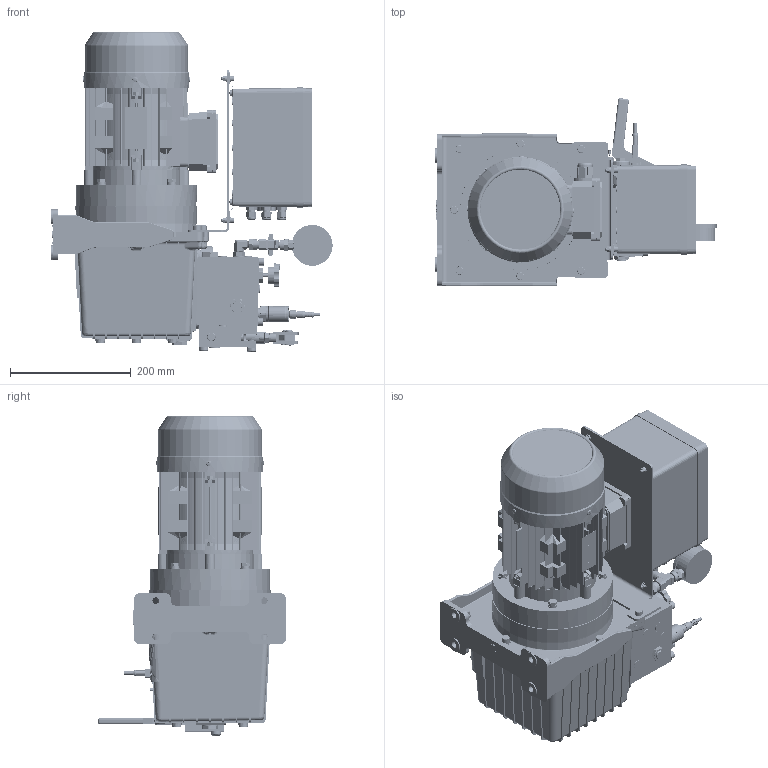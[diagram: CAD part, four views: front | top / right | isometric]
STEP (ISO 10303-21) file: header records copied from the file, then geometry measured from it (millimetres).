
FILE_DESCRIPTION(/* description */ (''),/* implementation_level */ '2;1');
FILE_NAME(/* name */ 'C:\Users\nemgal01\Desktop\STEP\73100.stp',/* time_stamp */ '2017-03-09T11:49:25+01:00',/* author */ ('nemgal01'),/* organization */ (''),/* preprocessor_version */ 'ST-DEVELOPER v16.1',/* originating_system */ 'Autodesk Inventor 2016',/* authorisation */ '');
FILE_SCHEMA (('AUTOMOTIVE_DESIGN { 1 0 10303 214 3 1 1 }'));
Products named in the file (1): 73100_Shrinkwrap_1
Bounding box: 466.63 x 311.68 x 530.29 mm (x, y, z)
Volume: 20932912.8 mm3; surface area: 1131544.8 mm2
Topology: 2 solids, 28 shells, 6126 faces, 15974 edges, 10138 vertices
Faces by surface type: plane 3433, cylinder 1429, cone 487, bspline 466, torus 293, sphere 18
Full cylindrical faces by diameter (mm): 2.388 x1, 4.039 x1, 5 x14, 6 x1, 6.299 x1, 7.323 x4, 7.7 x1, 8 x16, 8.376 x1, 8.5 x5, 8.89 x1, 8.967 x4, 9 x8, 9.2 x2, 9.246 x1, 9.42 x1, 9.5 x1, 9.6 x4, 9.954 x1, 10 x37, 10.773 x1, 11 x4, 11.113 x1, 11.12 x1, 11.15 x1, 11.4 x4, 12 x3, 12.7 x1, 13 x15, 13.2 x3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
Entity records: 213309 total; most frequent: CARTESIAN_POINT 62412, ORIENTED_EDGE 30804, DIRECTION 29056, EDGE_CURVE 15383, AXIS2_PLACEMENT_3D 10405, VERTEX_POINT 9995, LINE 8246, VECTOR 8246
